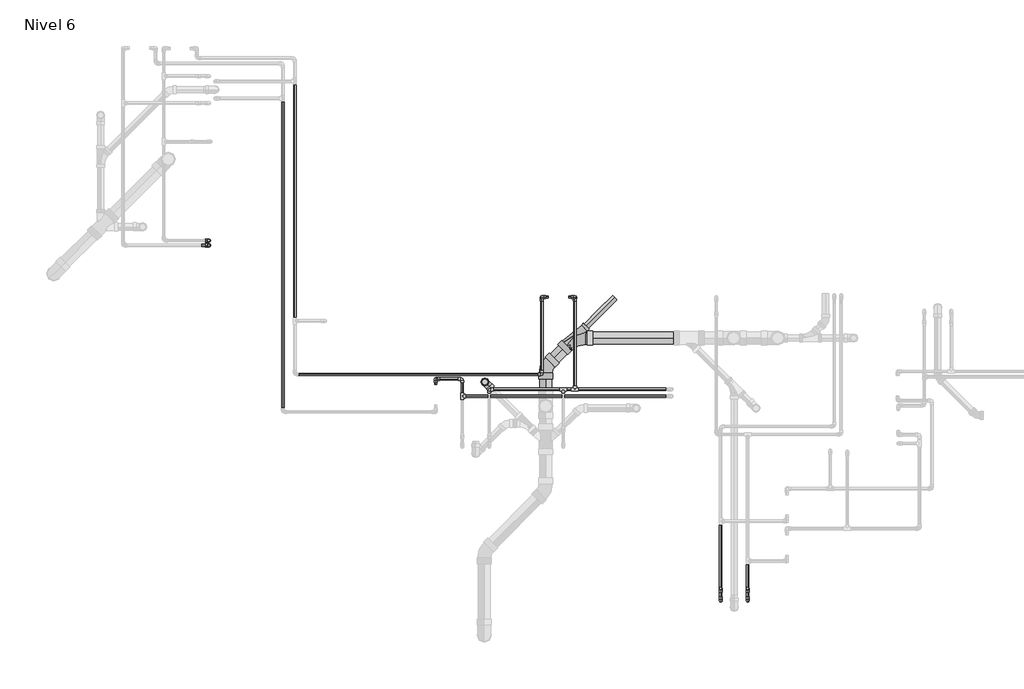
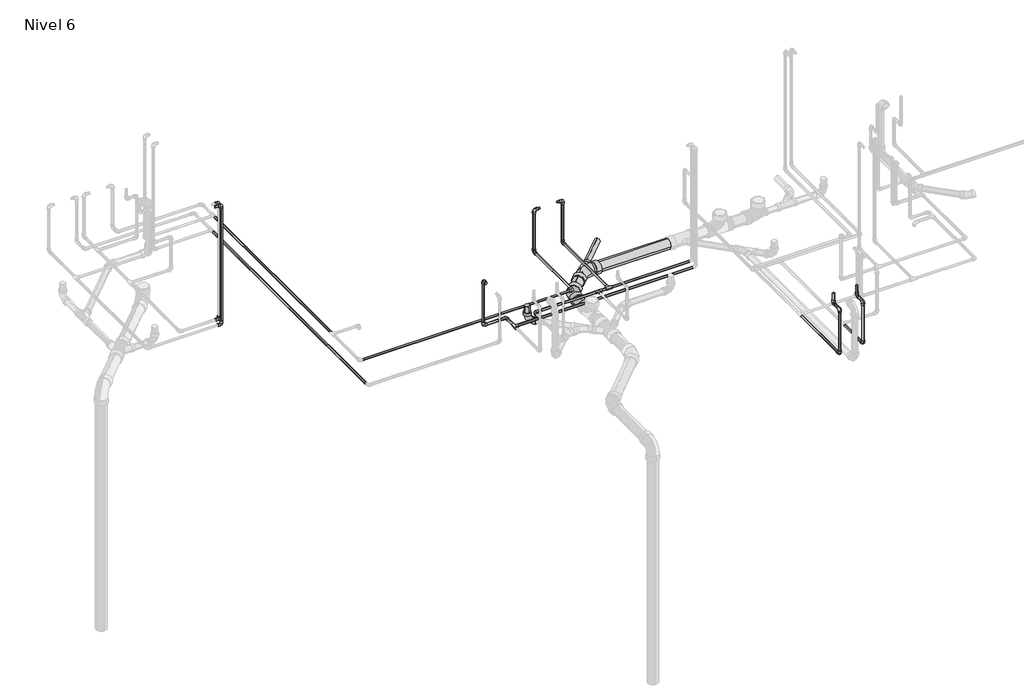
# One storey, part 3 of 11: 32 pipe segments, 25 pipe fittings.
"""IFC4 building model written with IfcOpenShell, lengths in millimetres."""

from ifc_helpers import new_model, si_unit, point, frame, frame_2d, origin, place, context, project, spatial, circle_curve, trimmed, segment, composite_curve, outline, extrude, transform, mapped, element, save
from components import pipe_fitting_ab418b84, pipe_fitting_e120c99a, m_codo_pvc_serie_40_9ad74631, m_codo_pvc_serie_40_ba05d404, m_codo_pvc_serie_40_dwv1_5c0ec739, m_codo_pvc_serie_40_dwv1_9a7ca077

model = new_model("IFC4")

# Units and contexts
model_context = context("Model", 3, world=origin())
ifc_project = project(units=[si_unit("LENGTHUNIT", "METRE", prefix="MILLI")], contexts=[model_context])

# Site, building, storey
site = spatial("IfcSite", under=ifc_project)
building = spatial("IfcBuilding", under=site)
storey = spatial("IfcBuildingStorey", under=building, Name="Nivel 6", Elevation=13400.0)

# Pipe fittings
placement = place(None, origin())
pipe_fitting_shape = pipe_fitting_ab418b84(model_context)
element("IfcPipeFitting", 1, ObjectType="M_Te - PVC - Serie 40 : Estándar", at=placement, inside=storey, context=model_context, shape_type="MappedRepresentation", body=[
    mapped(pipe_fitting_shape, transform((2451.6215833, 6045.419153, 13320.0), x_axis=(0.0, 1.0, 0.0), y_axis=(-1.0, 0.0, 0.0), z_axis=(0.0, 0.0, 1.0))),
])
element("IfcPipeFitting", 2, ObjectType="M_Te - PVC - Serie 40 : Estándar", at=placement, inside=storey, context=model_context, shape_type="MappedRepresentation", body=[
    mapped(pipe_fitting_shape, transform((3439.8834401, 6105.419153, 13350.0), x_axis=(-1.0, 0.0, 0.0), y_axis=(0.0, -1.0, 0.0), z_axis=(0.0, 0.0, 1.0))),
])
element("IfcPipeFitting", 3, ObjectType="M_Te - PVC - Serie 40 : Estándar", at=placement, inside=storey, context=model_context, shape_type="MappedRepresentation", body=[
    mapped(pipe_fitting_shape, transform((3336.8784649, 6105.419153, 13350.0), x_axis=(-1.0, 0.0, 0.0), y_axis=(0.0, 1.0, 0.0), z_axis=(0.0, 0.0, -1.0))),
])
pipe_fitting_2_shape = pipe_fitting_e120c99a(model_context)
element("IfcPipeFitting", 4, ObjectType="M_Sanitario con te de reducción - PVC - Serie 40 - DWV : Estándar", at=placement, inside=storey, context=model_context, shape_type="MappedRepresentation", body=[
    mapped(pipe_fitting_2_shape, transform((3434.8039727, 6555.7039726, 13250.0), x_axis=(0.7071067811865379, 0.7071067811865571, 0.0), y_axis=(-0.7071067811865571, 0.7071067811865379, 0.0), z_axis=(0.0, 0.0, 1.0))),
])
m_codo_pvc_serie_40_shape = m_codo_pvc_serie_40_9ad74631(model_context)
element("IfcPipeFitting", 5, ObjectType="M_Codo - PVC - Serie 40 : Estándar", at=placement, inside=storey, context=model_context, shape_type="MappedRepresentation", body=[
    mapped(m_codo_pvc_serie_40_shape, transform((233.7795655, 7410.6576087, 13350.0), x_axis=(1.0, 0.0, 0.0), y_axis=(0.0, 0.0, 1.0), z_axis=(0.0, -1.0, 0.0))),
])
element("IfcPipeFitting", 6, ObjectType="M_Codo - PVC - Serie 40 : Estándar", at=placement, inside=storey, context=model_context, shape_type="MappedRepresentation", body=[
    mapped(m_codo_pvc_serie_40_shape, transform((233.7795655, 7410.6576087, 14600.0), x_axis=(0.0, 0.0, 1.0), y_axis=(-1.0, 0.0, 0.0), z_axis=(0.0, -1.0, 0.0))),
])
element("IfcPipeFitting", 7, ObjectType="M_Codo - PVC - Serie 40 : Estándar", at=placement, inside=storey, context=model_context, shape_type="MappedRepresentation", body=[
    mapped(m_codo_pvc_serie_40_shape, transform((234.8834401, 7368.3498981, 13320.0), x_axis=(1.0, 0.0, 0.0), y_axis=(0.0, 0.0, 1.0), z_axis=(0.0, -1.0, 0.0))),
])
element("IfcPipeFitting", 8, ObjectType="M_Codo - PVC - Serie 40 : Estándar", at=placement, inside=storey, context=model_context, shape_type="MappedRepresentation", body=[
    mapped(m_codo_pvc_serie_40_shape, transform((234.8834401, 7368.3498981, 14600.0), x_axis=(0.0, 0.0, 1.0), y_axis=(-1.0, 0.0, 0.0), z_axis=(0.0, -1.0, 0.0))),
])
element("IfcPipeFitting", 9, ObjectType="M_Codo - PVC - Serie 40 : Estándar", at=placement, inside=storey, context=model_context, shape_type="MappedRepresentation", body=[
    mapped(m_codo_pvc_serie_40_shape, transform((3149.8834401, 6235.419153, 13350.0), x_axis=(1.0, 0.0, 0.0), y_axis=(0.0, 1.0, 0.0), z_axis=(0.0, 0.0, 1.0))),
])
element("IfcPipeFitting", 10, ObjectType="M_Codo - PVC - Serie 40 : Estándar", at=placement, inside=storey, context=model_context, shape_type="MappedRepresentation", body=[
    mapped(m_codo_pvc_serie_40_shape, transform((3149.8834401, 6915.419153, 13350.0), x_axis=(0.0, 1.0, 0.0), y_axis=(0.0, 0.0, 1.0), z_axis=(1.0, 0.0, 0.0))),
])
element("IfcPipeFitting", 11, ObjectType="M_Codo - PVC - Serie 40 : Estándar", at=placement, inside=storey, context=model_context, shape_type="MappedRepresentation", body=[
    mapped(m_codo_pvc_serie_40_shape, transform((3149.8834401, 6915.419153, 13800.0), x_axis=(0.0, 0.0, 1.0), y_axis=(1.0, 0.0, 0.0), z_axis=(0.0, 1.0, 0.0))),
])
element("IfcPipeFitting", 12, ObjectType="M_Codo - PVC - Serie 40 : Estándar", at=placement, inside=storey, context=model_context, shape_type="MappedRepresentation", body=[
    mapped(m_codo_pvc_serie_40_shape, transform((3439.8834401, 6915.419153, 13800.0), x_axis=(1.0, 0.0, 0.0), y_axis=(0.0, 0.0, -1.0), z_axis=(0.0, 1.0, 0.0))),
])
element("IfcPipeFitting", 13, ObjectType="M_Codo - PVC - Serie 40 : Estándar", at=placement, inside=storey, context=model_context, shape_type="MappedRepresentation", body=[
    mapped(m_codo_pvc_serie_40_shape, transform((3439.8834401, 6915.419153, 13350.0), x_axis=(0.0, 0.0, -1.0), y_axis=(0.0, -1.0, 0.0), z_axis=(-1.0, 0.0, 0.0))),
])
element("IfcPipeFitting", 14, ObjectType="M_Codo - PVC - Serie 40 : Estándar", at=placement, inside=storey, context=model_context, shape_type="MappedRepresentation", body=[
    mapped(m_codo_pvc_serie_40_shape, transform((2219.8834401, 6197.4295856, 13800.0), x_axis=(0.0, 1.0, 0.0), y_axis=(0.0, 0.0, -1.0), z_axis=(-1.0, 0.0, 0.0))),
])
element("IfcPipeFitting", 15, ObjectType="M_Codo - PVC - Serie 40 : Estándar", at=placement, inside=storey, context=model_context, shape_type="MappedRepresentation", body=[
    mapped(m_codo_pvc_serie_40_shape, transform((2219.8834401, 6197.4295856, 13320.0), x_axis=(0.0, 0.0, -1.0), y_axis=(1.0, 0.0, 0.0), z_axis=(0.0, -1.0, 0.0))),
])
element("IfcPipeFitting", 16, ObjectType="M_Codo - PVC - Serie 40 : Estándar", at=placement, inside=storey, context=model_context, shape_type="MappedRepresentation", body=[
    mapped(m_codo_pvc_serie_40_shape, transform((2451.6215833, 6197.4295856, 13320.0), x_axis=(0.0, 1.0, 0.0), y_axis=(-1.0, 0.0, 0.0), z_axis=(0.0, 0.0, 1.0))),
])
element("IfcPipeFitting", 17, ObjectType="M_Codo - PVC - Serie 40 : Estándar", at=placement, inside=storey, context=model_context, shape_type="MappedRepresentation", body=[
    mapped(m_codo_pvc_serie_40_shape, transform((2688.3784167, 6105.419153, 13350.0), x_axis=(-1.0, 0.0, 0.0), y_axis=(0.0, -1.0, 0.0), z_axis=(0.0, 0.0, 1.0))),
])
element("IfcPipeFitting", 18, ObjectType="M_Codo - PVC - Serie 40 : Estándar", at=placement, inside=storey, context=model_context, shape_type="MappedRepresentation", body=[
    mapped(m_codo_pvc_serie_40_shape, transform((4953.4727327, 4359.9007634, 13800.0), x_axis=(0.0, 0.0, -1.0), y_axis=(0.0, -1.0, 0.0), z_axis=(-1.0, 0.0, 0.0))),
])
element("IfcPipeFitting", 19, ObjectType="M_Codo - PVC - Serie 40 : Estándar", at=placement, inside=storey, context=model_context, shape_type="MappedRepresentation", body=[
    mapped(m_codo_pvc_serie_40_shape, transform((4953.4727327, 4251.1507634, 13800.0), x_axis=(0.0, -1.0, 0.0), y_axis=(0.0, 0.0, -1.0), z_axis=(1.0, 0.0, 0.0))),
])
element("IfcPipeFitting", 20, ObjectType="M_Codo - PVC - Serie 40 : Estándar", at=placement, inside=storey, context=model_context, shape_type="MappedRepresentation", body=[
    mapped(m_codo_pvc_serie_40_shape, transform((4716.7158993, 4251.1507634, 13320.0), x_axis=(0.0, 0.0, -1.0), y_axis=(0.0, 1.0, 0.0), z_axis=(1.0, 0.0, 0.0))),
])
element("IfcPipeFitting", 21, ObjectType="M_Codo - PVC - Serie 40 : Estándar", at=placement, inside=storey, context=model_context, shape_type="MappedRepresentation", body=[
    mapped(m_codo_pvc_serie_40_shape, transform((4953.4727327, 4251.1507634, 13350.0), x_axis=(0.0, 0.0, -1.0), y_axis=(0.0, 1.0, 0.0), z_axis=(1.0, 0.0, 0.0))),
])
m_codo_pvc_serie_40_2_shape = m_codo_pvc_serie_40_ba05d404(model_context)
element("IfcPipeFitting", 22, ObjectType="M_Codo - PVC - Serie 40 : Estándar", at=placement, inside=storey, context=model_context, shape_type="MappedRepresentation", body=[
    mapped(m_codo_pvc_serie_40_2_shape, transform((4716.7158993, 4359.9007634, 13800.0), x_axis=(0.0, 0.0, -1.0), y_axis=(0.0, 1.0, 0.0), z_axis=(1.0, 0.0, 0.0))),
])
element("IfcPipeFitting", 23, ObjectType="M_Codo - PVC - Serie 40 : Estándar", at=placement, inside=storey, context=model_context, shape_type="MappedRepresentation", body=[
    mapped(m_codo_pvc_serie_40_2_shape, transform((4716.7158993, 4251.1507634, 13800.0), x_axis=(0.0, -1.0, 0.0), y_axis=(0.0, 0.0, 1.0), z_axis=(-1.0, 0.0, 0.0))),
])
m_codo_pvc_serie_40_dwv1_shape = m_codo_pvc_serie_40_dwv1_5c0ec739(model_context)
element("IfcPipeFitting", 24, ObjectType="M_Codo - PVC - Serie 40 - DWV1 : Estándar 2", at=placement, inside=storey, context=model_context, shape_type="MappedRepresentation", body=[
    mapped(m_codo_pvc_serie_40_dwv1_shape, transform((2650.3017563, 6169.7032713, 13250.0), x_axis=(0.0, 0.0, -1.0), y_axis=(0.7071067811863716, -0.7071067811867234, 0.0), z_axis=(-0.7071067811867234, -0.7071067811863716, 0.0))),
])
m_codo_pvc_serie_40_dwv1_2_shape = m_codo_pvc_serie_40_dwv1_9a7ca077(model_context)
element("IfcPipeFitting", 25, ObjectType="M_Codo - PVC - Serie 40 - DWV1 : Estándar 2", at=placement, inside=storey, context=model_context, shape_type="MappedRepresentation", body=[
    mapped(m_codo_pvc_serie_40_dwv1_2_shape, transform((3183.3960274, 6304.2960273, 13250.0), x_axis=(-0.7071067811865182, -0.7071067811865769, 0.0), y_axis=(0.7071067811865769, -0.7071067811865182, 0.0), z_axis=(0.0, 0.0, 1.0))),
])

# Pipe segments
element("IfcPipeSegment", 26, ObjectType="Tuberia PVC Agua Fria", at=placement, inside=storey, context=model_context, shape_type="SweptSolid", body=[
    extrude(outline(composite_curve([segment(trimmed(circle_curve(frame_2d((6235.419153, 13350.0)), 10.31875), [point((6225.100403, 13350.0))], [point((6235.419153, 13360.31875))], False, "CARTESIAN"), True, "CONTINUOUS"), segment(trimmed(circle_curve(frame_2d((6235.419153, 13350.0)), 10.31875), [point((6235.419153, 13360.31875))], [point((6245.737903, 13350.0))], False, "CARTESIAN"), True, "CONTINUOUS"), segment(trimmed(circle_curve(frame_2d((6235.419153, 13350.0)), 10.31875), [point((6245.737903, 13350.0))], [point((6235.419153, 13339.68125))], False, "CARTESIAN"), True, "CONTINUOUS"), segment(trimmed(circle_curve(frame_2d((6235.419153, 13350.0)), 10.31875), [point((6235.419153, 13339.68125))], [point((6225.100403, 13350.0))], False, "CARTESIAN"), True, "CONTINUOUS")], self_intersect=False)), frame((1018.2844401, 0.0, 0.0), z_axis=(1.0, 0.0, 0.0), x_axis=(0.0, 1.0, 0.0)), (0.0, 0.0, 1.0), 2098.198),
])
element("IfcPipeSegment", 27, ObjectType="Tuberia PVC Agua Fria", at=placement, inside=storey, context=model_context, shape_type="SweptSolid", body=[
    extrude(outline(composite_curve([segment(trimmed(circle_curve(frame_2d((13350.0, 3149.8834401)), 10.31875), [point((13350.0, 3160.2021901))], [point((13360.31875, 3149.8834401))], False, "CARTESIAN"), True, "CONTINUOUS"), segment(trimmed(circle_curve(frame_2d((13350.0, 3149.8834401)), 10.31875), [point((13360.31875, 3149.8834401))], [point((13350.0, 3139.5646901))], False, "CARTESIAN"), True, "CONTINUOUS"), segment(trimmed(circle_curve(frame_2d((13350.0, 3149.8834401)), 10.31875), [point((13350.0, 3139.5646901))], [point((13339.68125, 3149.8834401))], False, "CARTESIAN"), True, "CONTINUOUS"), segment(trimmed(circle_curve(frame_2d((13350.0, 3149.8834401)), 10.31875), [point((13339.68125, 3149.8834401))], [point((13350.0, 3160.2021901))], False, "CARTESIAN"), True, "CONTINUOUS")], self_intersect=False)), frame((0.0, 6268.820153, 0.0), z_axis=(0.0, 1.0, 0.0), x_axis=(0.0, 0.0, 1.0)), (0.0, 0.0, 1.0), 613.198),
])
element("IfcPipeSegment", 28, ObjectType="Tuberia PVC Agua Fria", at=placement, inside=storey, context=model_context, shape_type="SweptSolid", body=[
    extrude(outline(composite_curve([segment(trimmed(circle_curve(frame_2d((6915.419153, 13800.0)), 10.31875), [point((6905.100403, 13800.0))], [point((6915.419153, 13810.31875))], False, "CARTESIAN"), True, "CONTINUOUS"), segment(trimmed(circle_curve(frame_2d((6915.419153, 13800.0)), 10.31875), [point((6915.419153, 13810.31875))], [point((6925.737903, 13800.0))], False, "CARTESIAN"), True, "CONTINUOUS"), segment(trimmed(circle_curve(frame_2d((6915.419153, 13800.0)), 10.31875), [point((6925.737903, 13800.0))], [point((6915.419153, 13789.68125))], False, "CARTESIAN"), True, "CONTINUOUS"), segment(trimmed(circle_curve(frame_2d((6915.419153, 13800.0)), 10.31875), [point((6915.419153, 13789.68125))], [point((6905.100403, 13800.0))], False, "CARTESIAN"), True, "CONTINUOUS")], self_intersect=False)), frame((3383.8834401, 0.0, 0.0), z_axis=(1.0, 0.0, 0.0), x_axis=(0.0, 1.0, 0.0)), (0.0, 0.0, 1.0), 22.599),
])
element("IfcPipeSegment", 29, ObjectType="Tuberia PVC Agua Fria", at=placement, inside=storey, context=model_context, shape_type="SweptSolid", body=[
    extrude(outline(composite_curve([segment(trimmed(circle_curve(frame_2d((3149.8834401, 6915.419153)), 10.31875), [point((3139.5646901, 6915.419153))], [point((3149.8834401, 6925.737903))], False, "CARTESIAN"), True, "CONTINUOUS"), segment(trimmed(circle_curve(frame_2d((3149.8834401, 6915.419153)), 10.31875), [point((3149.8834401, 6925.737903))], [point((3160.2021901, 6915.419153))], False, "CARTESIAN"), True, "CONTINUOUS"), segment(trimmed(circle_curve(frame_2d((3149.8834401, 6915.419153)), 10.31875), [point((3160.2021901, 6915.419153))], [point((3149.8834401, 6905.100403))], False, "CARTESIAN"), True, "CONTINUOUS"), segment(trimmed(circle_curve(frame_2d((3149.8834401, 6915.419153)), 10.31875), [point((3149.8834401, 6905.100403))], [point((3139.5646901, 6915.419153))], False, "CARTESIAN"), True, "CONTINUOUS")], self_intersect=False)), frame((0.0, 0.0, 13383.401), z_axis=(0.0, 0.0, 1.0), x_axis=(1.0, 0.0, 0.0)), (0.0, 0.0, 1.0), 383.198),
])
element("IfcPipeSegment", 30, ObjectType="Tuberia PVC Agua Fria", at=placement, inside=storey, context=model_context, shape_type="SweptSolid", body=[
    extrude(outline(composite_curve([segment(trimmed(circle_curve(frame_2d((13350.0, 3439.8834401)), 10.31875), [point((13350.0, 3429.5646901))], [point((13339.68125, 3439.8834401))], False, "CARTESIAN"), True, "CONTINUOUS"), segment(trimmed(circle_curve(frame_2d((13350.0, 3439.8834401)), 10.31875), [point((13339.68125, 3439.8834401))], [point((13350.0, 3450.2021901))], False, "CARTESIAN"), True, "CONTINUOUS"), segment(trimmed(circle_curve(frame_2d((13350.0, 3439.8834401)), 10.31875), [point((13350.0, 3450.2021901))], [point((13360.31875, 3439.8834401))], False, "CARTESIAN"), True, "CONTINUOUS"), segment(trimmed(circle_curve(frame_2d((13350.0, 3439.8834401)), 10.31875), [point((13360.31875, 3439.8834401))], [point((13350.0, 3429.5646901))], False, "CARTESIAN"), True, "CONTINUOUS")], self_intersect=False)), frame((0.0, 6135.8793092, 0.0), z_axis=(0.0, 1.0, 0.0), x_axis=(0.0, 0.0, 1.0)), (0.0, 0.0, 1.0), 746.1388438),
])
element("IfcPipeSegment", 31, ObjectType="Tuberia PVC Agua Fria", at=placement, inside=storey, context=model_context, shape_type="SweptSolid", body=[
    extrude(outline(composite_curve([segment(trimmed(circle_curve(frame_2d((3439.8834401, 6915.419153)), 10.31875), [point((3450.2021901, 6915.419153))], [point((3439.8834401, 6905.100403))], False, "CARTESIAN"), True, "CONTINUOUS"), segment(trimmed(circle_curve(frame_2d((3439.8834401, 6915.419153)), 10.31875), [point((3439.8834401, 6905.100403))], [point((3429.5646901, 6915.419153))], False, "CARTESIAN"), True, "CONTINUOUS"), segment(trimmed(circle_curve(frame_2d((3439.8834401, 6915.419153)), 10.31875), [point((3429.5646901, 6915.419153))], [point((3439.8834401, 6925.737903))], False, "CARTESIAN"), True, "CONTINUOUS"), segment(trimmed(circle_curve(frame_2d((3439.8834401, 6915.419153)), 10.31875), [point((3439.8834401, 6925.737903))], [point((3450.2021901, 6915.419153))], False, "CARTESIAN"), True, "CONTINUOUS")], self_intersect=False)), frame((0.0, 0.0, 13383.401), z_axis=(0.0, 0.0, 1.0), x_axis=(1.0, 0.0, 0.0)), (0.0, 0.0, 1.0), 383.198),
])
element("IfcPipeSegment", 32, ObjectType="Tuberia PVC Agua Fria", at=placement, inside=storey, context=model_context, shape_type="SweptSolid", body=[
    extrude(outline(composite_curve([segment(trimmed(circle_curve(frame_2d((6915.419153, 13800.0)), 10.31875), [point((6905.100403, 13800.0))], [point((6915.419153, 13810.31875))], False, "CARTESIAN"), True, "CONTINUOUS"), segment(trimmed(circle_curve(frame_2d((6915.419153, 13800.0)), 10.31875), [point((6915.419153, 13810.31875))], [point((6925.737903, 13800.0))], False, "CARTESIAN"), True, "CONTINUOUS"), segment(trimmed(circle_curve(frame_2d((6915.419153, 13800.0)), 10.31875), [point((6925.737903, 13800.0))], [point((6915.419153, 13789.68125))], False, "CARTESIAN"), True, "CONTINUOUS"), segment(trimmed(circle_curve(frame_2d((6915.419153, 13800.0)), 10.31875), [point((6915.419153, 13789.68125))], [point((6905.100403, 13800.0))], False, "CARTESIAN"), True, "CONTINUOUS")], self_intersect=False)), frame((3183.2844401, 0.0, 0.0), z_axis=(1.0, 0.0, 0.0), x_axis=(0.0, 1.0, 0.0)), (0.0, 0.0, 1.0), 22.599),
])
element("IfcPipeSegment", 33, ObjectType="Tuberia PVC Agua Fria", at=placement, inside=storey, context=model_context, shape_type="SweptSolid", body=[
    extrude(outline(composite_curve([segment(trimmed(circle_curve(frame_2d((6105.419153, 13350.0)), 10.31875), [point((6095.100403, 13350.0))], [point((6105.419153, 13360.31875))], False, "CARTESIAN"), True, "CONTINUOUS"), segment(trimmed(circle_curve(frame_2d((6105.419153, 13350.0)), 10.31875), [point((6105.419153, 13360.31875))], [point((6115.737903, 13350.0))], False, "CARTESIAN"), True, "CONTINUOUS"), segment(trimmed(circle_curve(frame_2d((6105.419153, 13350.0)), 10.31875), [point((6115.737903, 13350.0))], [point((6105.419153, 13339.68125))], False, "CARTESIAN"), True, "CONTINUOUS"), segment(trimmed(circle_curve(frame_2d((6105.419153, 13350.0)), 10.31875), [point((6105.419153, 13339.68125))], [point((6095.100403, 13350.0))], False, "CARTESIAN"), True, "CONTINUOUS")], self_intersect=False)), frame((3470.3435963, 0.0, 0.0), z_axis=(1.0, 0.0, 0.0), x_axis=(0.0, 1.0, 0.0)), (0.0, 0.0, 1.0), 784.8888438),
])
element("IfcPipeSegment", 34, ObjectType="Tuberia PVC Agua Fria", at=placement, inside=storey, context=model_context, shape_type="SweptSolid", body=[
    extrude(outline(composite_curve([segment(trimmed(circle_curve(frame_2d((6105.419153, 13350.0)), 10.31875), [point((6115.737903, 13350.0))], [point((6105.419153, 13339.68125))], False, "CARTESIAN"), True, "CONTINUOUS"), segment(trimmed(circle_curve(frame_2d((6105.419153, 13350.0)), 10.31875), [point((6105.419153, 13339.68125))], [point((6095.100403, 13350.0))], False, "CARTESIAN"), True, "CONTINUOUS"), segment(trimmed(circle_curve(frame_2d((6105.419153, 13350.0)), 10.31875), [point((6095.100403, 13350.0))], [point((6105.419153, 13360.31875))], False, "CARTESIAN"), True, "CONTINUOUS"), segment(trimmed(circle_curve(frame_2d((6105.419153, 13350.0)), 10.31875), [point((6105.419153, 13360.31875))], [point((6115.737903, 13350.0))], False, "CARTESIAN"), True, "CONTINUOUS")], self_intersect=False)), frame((2721.7794167, 0.0, 0.0), z_axis=(1.0, 0.0, 0.0), x_axis=(0.0, 1.0, 0.0)), (0.0, 0.0, 1.0), 584.6388919),
])
element("IfcPipeSegment", 35, ObjectType="Tuberia PVC Agua Fria", at=placement, inside=storey, context=model_context, shape_type="SweptSolid", body=[
    extrude(outline(composite_curve([segment(trimmed(circle_curve(frame_2d((6105.419153, 13350.0)), 10.31875), [point((6115.737903, 13350.0))], [point((6105.419153, 13339.68125))], False, "CARTESIAN"), True, "CONTINUOUS"), segment(trimmed(circle_curve(frame_2d((6105.419153, 13350.0)), 10.31875), [point((6105.419153, 13339.68125))], [point((6095.100403, 13350.0))], False, "CARTESIAN"), True, "CONTINUOUS"), segment(trimmed(circle_curve(frame_2d((6105.419153, 13350.0)), 10.31875), [point((6095.100403, 13350.0))], [point((6105.419153, 13360.31875))], False, "CARTESIAN"), True, "CONTINUOUS"), segment(trimmed(circle_curve(frame_2d((6105.419153, 13350.0)), 10.31875), [point((6105.419153, 13360.31875))], [point((6115.737903, 13350.0))], False, "CARTESIAN"), True, "CONTINUOUS")], self_intersect=False)), frame((3367.3386211, 0.0, 0.0), z_axis=(1.0, 0.0, 0.0), x_axis=(0.0, 1.0, 0.0)), (0.0, 0.0, 1.0), 42.0846627),
])
element("IfcPipeSegment", 36, ObjectType="Tuberia PVC Agua Fria", at=placement, inside=storey, context=model_context, shape_type="SweptSolid", body=[
    extrude(outline(composite_curve([segment(trimmed(circle_curve(frame_2d((13800.0, 4953.4727327)), 10.31875), [point((13800.0, 4943.1539827))], [point((13789.68125, 4953.4727327))], False, "CARTESIAN"), True, "CONTINUOUS"), segment(trimmed(circle_curve(frame_2d((13800.0, 4953.4727327)), 10.31875), [point((13789.68125, 4953.4727327))], [point((13800.0, 4963.7914827))], False, "CARTESIAN"), True, "CONTINUOUS"), segment(trimmed(circle_curve(frame_2d((13800.0, 4953.4727327)), 10.31875), [point((13800.0, 4963.7914827))], [point((13810.31875, 4953.4727327))], False, "CARTESIAN"), True, "CONTINUOUS"), segment(trimmed(circle_curve(frame_2d((13800.0, 4953.4727327)), 10.31875), [point((13810.31875, 4953.4727327))], [point((13800.0, 4943.1539827))], False, "CARTESIAN"), True, "CONTINUOUS")], self_intersect=False)), frame((0.0, 4284.5517634, 0.0), z_axis=(0.0, 1.0, 0.0), x_axis=(0.0, 0.0, 1.0)), (0.0, 0.0, 1.0), 41.948),
])
element("IfcPipeSegment", 37, ObjectType="Tuberia PVC Agua Fria", at=placement, inside=storey, context=model_context, shape_type="SweptSolid", body=[
    extrude(outline(composite_curve([segment(trimmed(circle_curve(frame_2d((4953.4727327, 4359.9007634)), 10.31875), [point((4963.7914827, 4359.9007634))], [point((4953.4727327, 4349.5820134))], False, "CARTESIAN"), True, "CONTINUOUS"), segment(trimmed(circle_curve(frame_2d((4953.4727327, 4359.9007634)), 10.31875), [point((4953.4727327, 4349.5820134))], [point((4943.1539827, 4359.9007634))], False, "CARTESIAN"), True, "CONTINUOUS"), segment(trimmed(circle_curve(frame_2d((4953.4727327, 4359.9007634)), 10.31875), [point((4943.1539827, 4359.9007634))], [point((4953.4727327, 4370.2195134))], False, "CARTESIAN"), True, "CONTINUOUS"), segment(trimmed(circle_curve(frame_2d((4953.4727327, 4359.9007634)), 10.31875), [point((4953.4727327, 4370.2195134))], [point((4963.7914827, 4359.9007634))], False, "CARTESIAN"), True, "CONTINUOUS")], self_intersect=False)), frame((0.0, 0.0, 13833.401), z_axis=(0.0, 0.0, 1.0), x_axis=(1.0, 0.0, 0.0)), (0.0, 0.0, 1.0), 74.0983614),
])
element("IfcPipeSegment", 38, ObjectType="Tuberia PVC Agua Fria", at=placement, inside=storey, context=model_context, shape_type="SweptSolid", body=[
    extrude(outline(composite_curve([segment(trimmed(circle_curve(frame_2d((13350.0, 4953.4727327)), 10.31875), [point((13350.0, 4943.1539827))], [point((13339.68125, 4953.4727327))], False, "CARTESIAN"), True, "CONTINUOUS"), segment(trimmed(circle_curve(frame_2d((13350.0, 4953.4727327)), 10.31875), [point((13339.68125, 4953.4727327))], [point((13350.0, 4963.7914827))], False, "CARTESIAN"), True, "CONTINUOUS"), segment(trimmed(circle_curve(frame_2d((13350.0, 4953.4727327)), 10.31875), [point((13350.0, 4963.7914827))], [point((13360.31875, 4953.4727327))], False, "CARTESIAN"), True, "CONTINUOUS"), segment(trimmed(circle_curve(frame_2d((13350.0, 4953.4727327)), 10.31875), [point((13360.31875, 4953.4727327))], [point((13350.0, 4943.1539827))], False, "CARTESIAN"), True, "CONTINUOUS")], self_intersect=False)), frame((0.0, 4284.5517634, 0.0), z_axis=(0.0, 1.0, 0.0), x_axis=(0.0, 0.0, 1.0)), (0.0, 0.0, 1.0), 284.4149319),
])
element("IfcPipeSegment", 39, ObjectType="Tuberia PVC Agua Fria", at=placement, inside=storey, context=model_context, shape_type="SweptSolid", body=[
    extrude(outline(composite_curve([segment(trimmed(circle_curve(frame_2d((4953.4727327, 4251.1507634)), 10.31875), [point((4963.7914827, 4251.1507634))], [point((4953.4727327, 4240.8320134))], False, "CARTESIAN"), True, "CONTINUOUS"), segment(trimmed(circle_curve(frame_2d((4953.4727327, 4251.1507634)), 10.31875), [point((4953.4727327, 4240.8320134))], [point((4943.1539827, 4251.1507634))], False, "CARTESIAN"), True, "CONTINUOUS"), segment(trimmed(circle_curve(frame_2d((4953.4727327, 4251.1507634)), 10.31875), [point((4943.1539827, 4251.1507634))], [point((4953.4727327, 4261.4695134))], False, "CARTESIAN"), True, "CONTINUOUS"), segment(trimmed(circle_curve(frame_2d((4953.4727327, 4251.1507634)), 10.31875), [point((4953.4727327, 4261.4695134))], [point((4963.7914827, 4251.1507634))], False, "CARTESIAN"), True, "CONTINUOUS")], self_intersect=False)), frame((0.0, 0.0, 13383.401), z_axis=(0.0, 0.0, 1.0), x_axis=(1.0, 0.0, 0.0)), (0.0, 0.0, 1.0), 383.198),
])
element("IfcPipeSegment", 40, ObjectType="Tuberia PVC VENTILACION", at=placement, inside=storey, context=model_context, shape_type="SweptSolid", body=[
    extrude(outline(composite_curve([segment(trimmed(circle_curve(frame_2d((0.0, 26.9875)), 26.9875), [point((26.9875, 26.9875))], [point((0.0, 0.0))], False, "CARTESIAN"), True, "CONTINUOUS"), segment(trimmed(circle_curve(frame_2d((0.0, 26.9875)), 26.9875), [point((0.0, 0.0))], [point((-26.9875, 26.9875))], False, "CARTESIAN"), True, "CONTINUOUS"), segment(trimmed(circle_curve(frame_2d((0.0, 26.9875)), 26.9875), [point((-26.9875, 26.9875))], [point((0.0, 53.975))], False, "CARTESIAN"), True, "CONTINUOUS"), segment(trimmed(circle_curve(frame_2d((0.0, 26.9875)), 26.9875), [point((0.0, 53.975))], [point((26.9875, 26.9875))], False, "CARTESIAN"), True, "CONTINUOUS")], self_intersect=False)), frame((3539.1957824, 6660.0957824, 13276.9875), z_axis=(0.707106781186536, 0.7071067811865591, 0.0), x_axis=(0.7071067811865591, -0.707106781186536, 0.0)), (0.0, 0.0, 1.0), 353.34),
])
element("IfcPipeSegment", 41, ObjectType="Tuberia PVC Agua Fria", at=placement, inside=storey, context=model_context, shape_type="SweptSolid", body=[
    extrude(outline(composite_curve([segment(trimmed(circle_curve(frame_2d((13350.0, 984.8834401)), 10.31875), [point((13350.0, 995.2021901))], [point((13360.31875, 984.8834401))], False, "CARTESIAN"), True, "CONTINUOUS"), segment(trimmed(circle_curve(frame_2d((13350.0, 984.8834401)), 10.31875), [point((13360.31875, 984.8834401))], [point((13350.0, 974.5646901))], False, "CARTESIAN"), True, "CONTINUOUS"), segment(trimmed(circle_curve(frame_2d((13350.0, 984.8834401)), 10.31875), [point((13350.0, 974.5646901))], [point((13339.68125, 984.8834401))], False, "CARTESIAN"), True, "CONTINUOUS"), segment(trimmed(circle_curve(frame_2d((13350.0, 984.8834401)), 10.31875), [point((13339.68125, 984.8834401))], [point((13350.0, 995.2021901))], False, "CARTESIAN"), True, "CONTINUOUS")], self_intersect=False)), frame((0.0, 6736.3394655, 0.0), z_axis=(0.0, 1.0, 0.0), x_axis=(0.0, 0.0, 1.0)), (0.0, 0.0, 1.0), 2040.1735915),
])
element("IfcPipeSegment", 42, ObjectType="Tuberia PVC Agua Caliente", at=placement, inside=storey, context=model_context, shape_type="SweptSolid", body=[
    extrude(outline(composite_curve([segment(trimmed(circle_curve(frame_2d((7368.3498981, 14600.0)), 10.31875), [point((7378.6686481, 14600.0))], [point((7368.3498981, 14589.68125))], False, "CARTESIAN"), True, "CONTINUOUS"), segment(trimmed(circle_curve(frame_2d((7368.3498981, 14600.0)), 10.31875), [point((7368.3498981, 14589.68125))], [point((7358.0311481, 14600.0))], False, "CARTESIAN"), True, "CONTINUOUS"), segment(trimmed(circle_curve(frame_2d((7368.3498981, 14600.0)), 10.31875), [point((7358.0311481, 14600.0))], [point((7368.3498981, 14610.31875))], False, "CARTESIAN"), True, "CONTINUOUS"), segment(trimmed(circle_curve(frame_2d((7368.3498981, 14600.0)), 10.31875), [point((7368.3498981, 14610.31875))], [point((7378.6686481, 14600.0))], False, "CARTESIAN"), True, "CONTINUOUS")], self_intersect=False)), frame((169.8834401, 0.0, 0.0), z_axis=(1.0, 0.0, 0.0), x_axis=(0.0, 1.0, 0.0)), (0.0, 0.0, 1.0), 31.599),
])
element("IfcPipeSegment", 43, ObjectType="Tuberia PVC Agua Caliente", at=placement, inside=storey, context=model_context, shape_type="SweptSolid", body=[
    extrude(outline(composite_curve([segment(trimmed(circle_curve(frame_2d((234.8834401, 7368.3498981)), 10.31875), [point((224.5646901, 7368.3498981))], [point((234.8834401, 7378.6686481))], False, "CARTESIAN"), True, "CONTINUOUS"), segment(trimmed(circle_curve(frame_2d((234.8834401, 7368.3498981)), 10.31875), [point((234.8834401, 7378.6686481))], [point((245.2021901, 7368.3498981))], False, "CARTESIAN"), True, "CONTINUOUS"), segment(trimmed(circle_curve(frame_2d((234.8834401, 7368.3498981)), 10.31875), [point((245.2021901, 7368.3498981))], [point((234.8834401, 7358.0311481))], False, "CARTESIAN"), True, "CONTINUOUS"), segment(trimmed(circle_curve(frame_2d((234.8834401, 7368.3498981)), 10.31875), [point((234.8834401, 7358.0311481))], [point((224.5646901, 7368.3498981))], False, "CARTESIAN"), True, "CONTINUOUS")], self_intersect=False)), frame((0.0, 0.0, 13353.401), z_axis=(0.0, 0.0, 1.0), x_axis=(1.0, 0.0, 0.0)), (0.0, 0.0, 1.0), 1213.198),
])
element("IfcPipeSegment", 44, ObjectType="Tuberia PVC Agua Caliente", at=placement, inside=storey, context=model_context, shape_type="SweptSolid", body=[
    extrude(outline(composite_curve([segment(trimmed(circle_curve(frame_2d((13800.0, 2219.8834401)), 10.31875), [point((13800.0, 2230.2021901))], [point((13810.31875, 2219.8834401))], False, "CARTESIAN"), True, "CONTINUOUS"), segment(trimmed(circle_curve(frame_2d((13800.0, 2219.8834401)), 10.31875), [point((13810.31875, 2219.8834401))], [point((13800.0, 2209.5646901))], False, "CARTESIAN"), True, "CONTINUOUS"), segment(trimmed(circle_curve(frame_2d((13800.0, 2219.8834401)), 10.31875), [point((13800.0, 2209.5646901))], [point((13789.68125, 2219.8834401))], False, "CARTESIAN"), True, "CONTINUOUS"), segment(trimmed(circle_curve(frame_2d((13800.0, 2219.8834401)), 10.31875), [point((13789.68125, 2219.8834401))], [point((13800.0, 2230.2021901))], False, "CARTESIAN"), True, "CONTINUOUS")], self_intersect=False)), frame((0.0, 6146.4295856, 0.0), z_axis=(0.0, 1.0, 0.0), x_axis=(0.0, 0.0, 1.0)), (0.0, 0.0, 1.0), 17.599),
])
element("IfcPipeSegment", 45, ObjectType="Tuberia PVC Agua Caliente", at=placement, inside=storey, context=model_context, shape_type="SweptSolid", body=[
    extrude(outline(composite_curve([segment(trimmed(circle_curve(frame_2d((6197.4295856, 13320.0)), 10.31875), [point((6187.1108356, 13320.0))], [point((6197.4295856, 13330.31875))], False, "CARTESIAN"), True, "CONTINUOUS"), segment(trimmed(circle_curve(frame_2d((6197.4295856, 13320.0)), 10.31875), [point((6197.4295856, 13330.31875))], [point((6207.7483356, 13320.0))], False, "CARTESIAN"), True, "CONTINUOUS"), segment(trimmed(circle_curve(frame_2d((6197.4295856, 13320.0)), 10.31875), [point((6207.7483356, 13320.0))], [point((6197.4295856, 13309.68125))], False, "CARTESIAN"), True, "CONTINUOUS"), segment(trimmed(circle_curve(frame_2d((6197.4295856, 13320.0)), 10.31875), [point((6197.4295856, 13309.68125))], [point((6187.1108356, 13320.0))], False, "CARTESIAN"), True, "CONTINUOUS")], self_intersect=False)), frame((2253.2844401, 0.0, 0.0), z_axis=(1.0, 0.0, 0.0), x_axis=(0.0, 1.0, 0.0)), (0.0, 0.0, 1.0), 164.9361432),
])
element("IfcPipeSegment", 46, ObjectType="Tuberia PVC Agua Caliente", at=placement, inside=storey, context=model_context, shape_type="SweptSolid", body=[
    extrude(outline(composite_curve([segment(trimmed(circle_curve(frame_2d((2219.8834401, 6197.4295856)), 10.31875), [point((2230.2021901, 6197.4295856))], [point((2219.8834401, 6187.1108356))], False, "CARTESIAN"), True, "CONTINUOUS"), segment(trimmed(circle_curve(frame_2d((2219.8834401, 6197.4295856)), 10.31875), [point((2219.8834401, 6187.1108356))], [point((2209.5646901, 6197.4295856))], False, "CARTESIAN"), True, "CONTINUOUS"), segment(trimmed(circle_curve(frame_2d((2219.8834401, 6197.4295856)), 10.31875), [point((2209.5646901, 6197.4295856))], [point((2219.8834401, 6207.7483356))], False, "CARTESIAN"), True, "CONTINUOUS"), segment(trimmed(circle_curve(frame_2d((2219.8834401, 6197.4295856)), 10.31875), [point((2219.8834401, 6207.7483356))], [point((2230.2021901, 6197.4295856))], False, "CARTESIAN"), True, "CONTINUOUS")], self_intersect=False)), frame((0.0, 0.0, 13353.401), z_axis=(0.0, 0.0, 1.0), x_axis=(1.0, 0.0, 0.0)), (0.0, 0.0, 1.0), 413.198),
])
element("IfcPipeSegment", 47, ObjectType="Tuberia PVC Agua Caliente", at=placement, inside=storey, context=model_context, shape_type="SweptSolid", body=[
    extrude(outline(composite_curve([segment(trimmed(circle_curve(frame_2d((6045.419153, 13320.0)), 10.31875), [point((6055.737903, 13320.0))], [point((6045.419153, 13309.68125))], False, "CARTESIAN"), True, "CONTINUOUS"), segment(trimmed(circle_curve(frame_2d((6045.419153, 13320.0)), 10.31875), [point((6045.419153, 13309.68125))], [point((6035.100403, 13320.0))], False, "CARTESIAN"), True, "CONTINUOUS"), segment(trimmed(circle_curve(frame_2d((6045.419153, 13320.0)), 10.31875), [point((6035.100403, 13320.0))], [point((6045.419153, 13330.31875))], False, "CARTESIAN"), True, "CONTINUOUS"), segment(trimmed(circle_curve(frame_2d((6045.419153, 13320.0)), 10.31875), [point((6045.419153, 13330.31875))], [point((6055.737903, 13320.0))], False, "CARTESIAN"), True, "CONTINUOUS")], self_intersect=False)), frame((2482.0817396, 0.0, 0.0), z_axis=(1.0, 0.0, 0.0), x_axis=(0.0, 1.0, 0.0)), (0.0, 0.0, 1.0), 1773.1507005),
])
element("IfcPipeSegment", 48, ObjectType="Tuberia PVC Agua Caliente", at=placement, inside=storey, context=model_context, shape_type="SweptSolid", body=[
    extrude(outline(composite_curve([segment(trimmed(circle_curve(frame_2d((13320.0, 2451.6215833)), 10.31875), [point((13320.0, 2441.3028333))], [point((13309.68125, 2451.6215833))], False, "CARTESIAN"), True, "CONTINUOUS"), segment(trimmed(circle_curve(frame_2d((13320.0, 2451.6215833)), 10.31875), [point((13309.68125, 2451.6215833))], [point((13320.0, 2461.9403333))], False, "CARTESIAN"), True, "CONTINUOUS"), segment(trimmed(circle_curve(frame_2d((13320.0, 2451.6215833)), 10.31875), [point((13320.0, 2461.9403333))], [point((13330.31875, 2451.6215833))], False, "CARTESIAN"), True, "CONTINUOUS"), segment(trimmed(circle_curve(frame_2d((13320.0, 2451.6215833)), 10.31875), [point((13330.31875, 2451.6215833))], [point((13320.0, 2441.3028333))], False, "CARTESIAN"), True, "CONTINUOUS")], self_intersect=False)), frame((0.0, 6075.8793092, 0.0), z_axis=(0.0, 1.0, 0.0), x_axis=(0.0, 0.0, 1.0)), (0.0, 0.0, 1.0), 88.1492764),
])
element("IfcPipeSegment", 49, ObjectType="Tuberia PVC Agua Caliente", at=placement, inside=storey, context=model_context, shape_type="SweptSolid", body=[
    extrude(outline(composite_curve([segment(trimmed(circle_curve(frame_2d((13800.0, 4716.7158993)), 10.31875), [point((13800.0, 4706.3971493))], [point((13789.68125, 4716.7158993))], False, "CARTESIAN"), True, "CONTINUOUS"), segment(trimmed(circle_curve(frame_2d((13800.0, 4716.7158993)), 10.31875), [point((13789.68125, 4716.7158993))], [point((13800.0, 4727.0346493))], False, "CARTESIAN"), True, "CONTINUOUS"), segment(trimmed(circle_curve(frame_2d((13800.0, 4716.7158993)), 10.31875), [point((13800.0, 4727.0346493))], [point((13810.31875, 4716.7158993))], False, "CARTESIAN"), True, "CONTINUOUS"), segment(trimmed(circle_curve(frame_2d((13800.0, 4716.7158993)), 10.31875), [point((13810.31875, 4716.7158993))], [point((13800.0, 4706.3971493))], False, "CARTESIAN"), True, "CONTINUOUS")], self_intersect=False)), frame((0.0, 4284.5517634, 0.0), z_axis=(0.0, 1.0, 0.0), x_axis=(0.0, 0.0, 1.0)), (0.0, 0.0, 1.0), 41.948),
])
element("IfcPipeSegment", 50, ObjectType="Tuberia PVC Agua Caliente", at=placement, inside=storey, context=model_context, shape_type="SweptSolid", body=[
    extrude(outline(composite_curve([segment(trimmed(circle_curve(frame_2d((4716.7158993, 4359.9007634)), 10.31875), [point((4727.0346493, 4359.9007634))], [point((4716.7158993, 4349.5820134))], False, "CARTESIAN"), True, "CONTINUOUS"), segment(trimmed(circle_curve(frame_2d((4716.7158993, 4359.9007634)), 10.31875), [point((4716.7158993, 4349.5820134))], [point((4706.3971493, 4359.9007634))], False, "CARTESIAN"), True, "CONTINUOUS"), segment(trimmed(circle_curve(frame_2d((4716.7158993, 4359.9007634)), 10.31875), [point((4706.3971493, 4359.9007634))], [point((4716.7158993, 4370.2195134))], False, "CARTESIAN"), True, "CONTINUOUS"), segment(trimmed(circle_curve(frame_2d((4716.7158993, 4359.9007634)), 10.31875), [point((4716.7158993, 4370.2195134))], [point((4727.0346493, 4359.9007634))], False, "CARTESIAN"), True, "CONTINUOUS")], self_intersect=False)), frame((0.0, 0.0, 13833.401), z_axis=(0.0, 0.0, 1.0), x_axis=(1.0, 0.0, 0.0)), (0.0, 0.0, 1.0), 74.0983614),
])
element("IfcPipeSegment", 51, ObjectType="Tuberia PVC Agua Caliente", at=placement, inside=storey, context=model_context, shape_type="SweptSolid", body=[
    extrude(outline(composite_curve([segment(trimmed(circle_curve(frame_2d((13320.0, 4716.7158993)), 10.31875), [point((13320.0, 4706.3971493))], [point((13309.68125, 4716.7158993))], False, "CARTESIAN"), True, "CONTINUOUS"), segment(trimmed(circle_curve(frame_2d((13320.0, 4716.7158993)), 10.31875), [point((13309.68125, 4716.7158993))], [point((13320.0, 4727.0346493))], False, "CARTESIAN"), True, "CONTINUOUS"), segment(trimmed(circle_curve(frame_2d((13320.0, 4716.7158993)), 10.31875), [point((13320.0, 4727.0346493))], [point((13330.31875, 4716.7158993))], False, "CARTESIAN"), True, "CONTINUOUS"), segment(trimmed(circle_curve(frame_2d((13320.0, 4716.7158993)), 10.31875), [point((13330.31875, 4716.7158993))], [point((13320.0, 4706.3971493))], False, "CARTESIAN"), True, "CONTINUOUS")], self_intersect=False)), frame((0.0, 4284.5517634, 0.0), z_axis=(0.0, 1.0, 0.0), x_axis=(0.0, 0.0, 1.0)), (0.0, 0.0, 1.0), 634.4149319),
])
element("IfcPipeSegment", 52, ObjectType="Tuberia PVC Agua Caliente", at=placement, inside=storey, context=model_context, shape_type="SweptSolid", body=[
    extrude(outline(composite_curve([segment(trimmed(circle_curve(frame_2d((4716.7158993, 4251.1507634)), 10.31875), [point((4727.0346493, 4251.1507634))], [point((4716.7158993, 4240.8320134))], False, "CARTESIAN"), True, "CONTINUOUS"), segment(trimmed(circle_curve(frame_2d((4716.7158993, 4251.1507634)), 10.31875), [point((4716.7158993, 4240.8320134))], [point((4706.3971493, 4251.1507634))], False, "CARTESIAN"), True, "CONTINUOUS"), segment(trimmed(circle_curve(frame_2d((4716.7158993, 4251.1507634)), 10.31875), [point((4706.3971493, 4251.1507634))], [point((4716.7158993, 4261.4695134))], False, "CARTESIAN"), True, "CONTINUOUS"), segment(trimmed(circle_curve(frame_2d((4716.7158993, 4251.1507634)), 10.31875), [point((4716.7158993, 4261.4695134))], [point((4727.0346493, 4251.1507634))], False, "CARTESIAN"), True, "CONTINUOUS")], self_intersect=False)), frame((0.0, 0.0, 13353.401), z_axis=(0.0, 0.0, 1.0), x_axis=(1.0, 0.0, 0.0)), (0.0, 0.0, 1.0), 413.198),
])
element("IfcPipeSegment", 53, ObjectType="Tuberia PVC Agua Caliente", at=placement, inside=storey, context=model_context, shape_type="SweptSolid", body=[
    extrude(outline(composite_curve([segment(trimmed(circle_curve(frame_2d((13320.0, 879.8834401)), 10.31875), [point((13320.0, 869.5646901))], [point((13309.68125, 879.8834401))], False, "CARTESIAN"), True, "CONTINUOUS"), segment(trimmed(circle_curve(frame_2d((13320.0, 879.8834401)), 10.31875), [point((13309.68125, 879.8834401))], [point((13320.0, 890.2021901))], False, "CARTESIAN"), True, "CONTINUOUS"), segment(trimmed(circle_curve(frame_2d((13320.0, 879.8834401)), 10.31875), [point((13320.0, 890.2021901))], [point((13330.31875, 879.8834401))], False, "CARTESIAN"), True, "CONTINUOUS"), segment(trimmed(circle_curve(frame_2d((13320.0, 879.8834401)), 10.31875), [point((13330.31875, 879.8834401))], [point((13320.0, 869.5646901))], False, "CARTESIAN"), True, "CONTINUOUS")], self_intersect=False)), frame((0.0, 5940.8305856, 0.0), z_axis=(0.0, 1.0, 0.0), x_axis=(0.0, 0.0, 1.0)), (0.0, 0.0, 1.0), 2685.6824714),
])
element("IfcPipeSegment", 54, ObjectType="Tuberia PVC Sanitario", at=placement, inside=storey, context=model_context, shape_type="SweptSolid", body=[
    extrude(outline(composite_curve([segment(trimmed(circle_curve(frame_2d((6555.7039726, 13250.0)), 52.3875), [point((6608.0914726, 13250.0))], [point((6555.7039726, 13197.6125))], False, "CARTESIAN"), True, "CONTINUOUS"), segment(trimmed(circle_curve(frame_2d((6555.7039726, 13250.0)), 52.3875), [point((6555.7039726, 13197.6125))], [point((6503.3164726, 13250.0))], False, "CARTESIAN"), True, "CONTINUOUS"), segment(trimmed(circle_curve(frame_2d((6555.7039726, 13250.0)), 52.3875), [point((6503.3164726, 13250.0))], [point((6555.7039726, 13302.3875))], False, "CARTESIAN"), True, "CONTINUOUS"), segment(trimmed(circle_curve(frame_2d((6555.7039726, 13250.0)), 52.3875), [point((6555.7039726, 13302.3875))], [point((6608.0914726, 13250.0))], False, "CARTESIAN"), True, "CONTINUOUS")], self_intersect=False)), frame((3596.9815794, 0.0, 0.0), z_axis=(1.0, 0.0, 0.0), x_axis=(0.0, 1.0, 0.0)), (0.0, 0.0, 1.0), 708.6720858),
])
element("IfcPipeSegment", 55, ObjectType="Tuberia PVC Sanitario", at=placement, inside=storey, context=model_context, shape_type="SweptSolid", body=[
    extrude(outline(composite_curve([segment(trimmed(circle_curve(frame_2d((13250.0, 3183.3960274)), 52.3875), [point((13250.0, 3131.0085274))], [point((13197.6125, 3183.3960274))], False, "CARTESIAN"), True, "CONTINUOUS"), segment(trimmed(circle_curve(frame_2d((13250.0, 3183.3960274)), 52.3875), [point((13197.6125, 3183.3960274))], [point((13250.0, 3235.7835274))], False, "CARTESIAN"), True, "CONTINUOUS"), segment(trimmed(circle_curve(frame_2d((13250.0, 3183.3960274)), 52.3875), [point((13250.0, 3235.7835274))], [point((13302.3875, 3183.3960274))], False, "CARTESIAN"), True, "CONTINUOUS"), segment(trimmed(circle_curve(frame_2d((13250.0, 3183.3960274)), 52.3875), [point((13302.3875, 3183.3960274))], [point((13250.0, 3131.0085274))], False, "CARTESIAN"), True, "CONTINUOUS")], self_intersect=False)), frame((0.0, 6103.1907421, 0.0), z_axis=(0.0, 1.0, 0.0), x_axis=(0.0, 0.0, 1.0)), (0.0, 0.0, 1.0), 93.9410978),
])
element("IfcPipeSegment", 56, ObjectType="Tuberia PVC Sanitario", at=placement, inside=storey, context=model_context, shape_type="SweptSolid", body=[
    extrude(outline(composite_curve([segment(trimmed(circle_curve(frame_2d((0.0, -52.3875)), 52.3875), [point((-52.3875, -52.3875))], [point((0.0, 0.0))], False, "CARTESIAN"), True, "CONTINUOUS"), segment(trimmed(circle_curve(frame_2d((0.0, -52.3875)), 52.3875), [point((0.0, 0.0))], [point((52.3875, -52.3875))], False, "CARTESIAN"), True, "CONTINUOUS"), segment(trimmed(circle_curve(frame_2d((0.0, -52.3875)), 52.3875), [point((52.3875, -52.3875))], [point((0.0, -104.775))], False, "CARTESIAN"), True, "CONTINUOUS"), segment(trimmed(circle_curve(frame_2d((0.0, -52.3875)), 52.3875), [point((0.0, -104.775))], [point((-52.3875, -52.3875))], False, "CARTESIAN"), True, "CONTINUOUS")], self_intersect=False)), frame((3259.172551, 6380.072551, 13197.6125), z_axis=(0.7071067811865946, 0.7071067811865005, 0.0), x_axis=(0.7071067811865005, -0.7071067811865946, 0.0)), (0.0, 0.0, 1.0), 104.4856237),
])
element("IfcPipeSegment", 57, ObjectType="Tuberia PVC Sanitario", at=placement, inside=storey, context=model_context, shape_type="SweptSolid", body=[
    extrude(outline(composite_curve([segment(trimmed(circle_curve(frame_2d((2650.3017563, 6169.7032713)), 26.9875), [point((2677.2892563, 6169.7032713))], [point((2650.3017563, 6142.7157713))], False, "CARTESIAN"), True, "CONTINUOUS"), segment(trimmed(circle_curve(frame_2d((2650.3017563, 6169.7032713)), 26.9875), [point((2650.3017563, 6142.7157713))], [point((2623.3142563, 6169.7032713))], False, "CARTESIAN"), True, "CONTINUOUS"), segment(trimmed(circle_curve(frame_2d((2650.3017563, 6169.7032713)), 26.9875), [point((2623.3142563, 6169.7032713))], [point((2650.3017563, 6196.6907713))], False, "CARTESIAN"), True, "CONTINUOUS"), segment(trimmed(circle_curve(frame_2d((2650.3017563, 6169.7032713)), 26.9875), [point((2650.3017563, 6196.6907713))], [point((2677.2892563, 6169.7032713))], False, "CARTESIAN"), True, "CONTINUOUS")], self_intersect=False)), frame((0.0, 0.0, 13332.5420625), z_axis=(0.0, 0.0, 1.0), x_axis=(1.0, 0.0, 0.0)), (0.0, 0.0, 1.0), 67.4579375),
])

save(model, "model.ifc")
